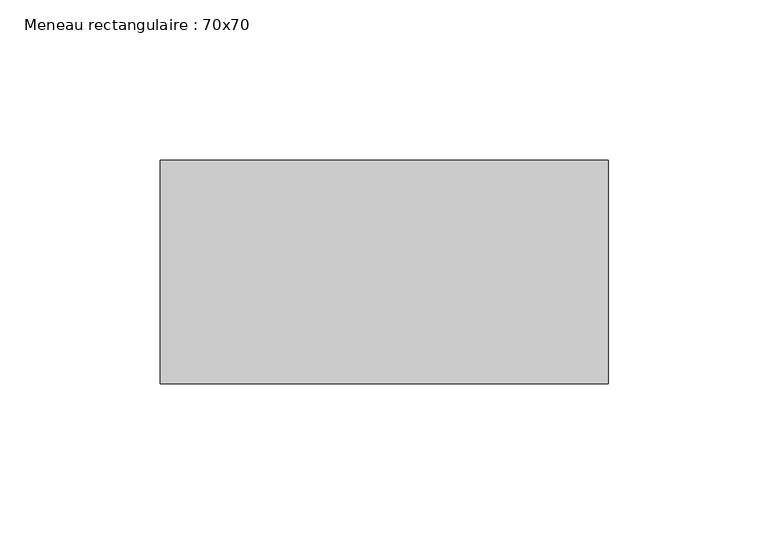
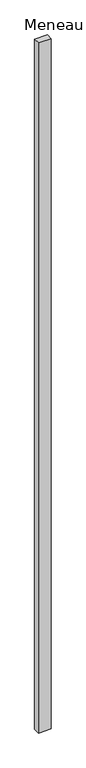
"""IFC4 building model written with IfcOpenShell, lengths in millimetres: member geometry, Meneau rectangulaire : 70x70."""

from ifc_helpers import new_model, si_unit, frame, origin, place, context, project, spatial, polyline, outline, extrude, source, transform, mapped, element, save


def meneau_rectangulaire_70x70_43acac59(model_context):
    return source(origin(), model_context, "Body", "SweptSolid", [
        extrude(outline(polyline([(0.0, 15.0), (0.0, -55.0), (-140.0, -55.0), (-140.0, 15.0), (0.0, 15.0)])), frame((0.0, 0.0, -8085.2074839), z_axis=(0.0, 0.0, 1.0), x_axis=(1.0, 0.0, 0.0)), (0.0, 0.0, 1.0), 8085.2074839),
    ])


if __name__ == "__main__":
    model = new_model("IFC4")
    model_context = context("Model", 3, world=origin())
    ifc_project = project(units=[si_unit("LENGTHUNIT", "METRE", prefix="MILLI")], contexts=[model_context])
    site = spatial("IfcSite", under=ifc_project)
    building = spatial("IfcBuilding", under=site)
    placement = place(None, origin())
    meneau_rectangulaire_70x70_shape = meneau_rectangulaire_70x70_43acac59(model_context)
    element("IfcMember", 1, ObjectType="Meneau rectangulaire : 70x70", at=placement, inside=building, context=model_context, shape_type="MappedRepresentation", body=[
        mapped(meneau_rectangulaire_70x70_shape, transform((0.0, 0.0, 0.0), x_axis=(1.0, 0.0, 0.0), y_axis=(0.0, 1.0, 0.0), z_axis=(0.0, 0.0, 1.0))),
    ])
    save(model, "model.ifc")
